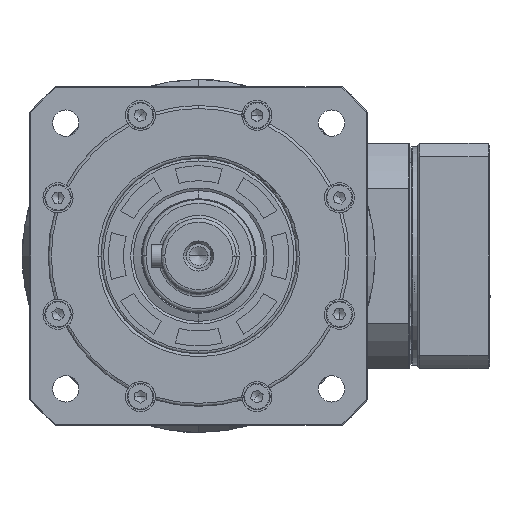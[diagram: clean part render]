
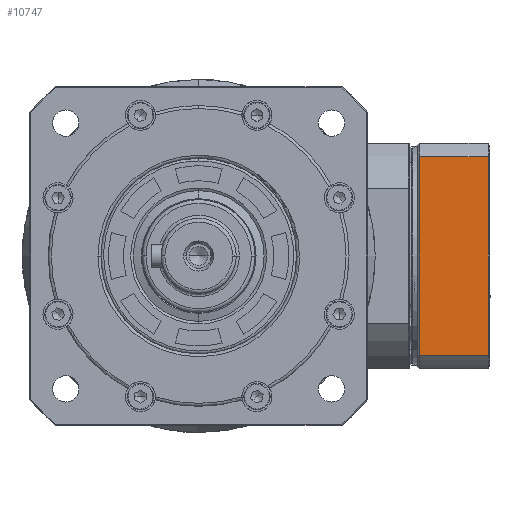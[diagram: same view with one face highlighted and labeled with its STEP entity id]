
A CAD part, left-side view. The second image highlights one B-rep face of the part: STEP entity #10747.
In plain terms, the highlighted planar face has unit normal (-1, 0, 0) as drawn and (0, -1, 0) by its records, which use the part's own axes.
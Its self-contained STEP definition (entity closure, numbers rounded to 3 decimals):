
#226 = ORIENTED_EDGE ( 'NONE', *, *, #49628, .T. ) ;
#1699 = CARTESIAN_POINT ( 'NONE',  ( 6.3, -30., 26.458 ) ) ;
#5575 = CARTESIAN_POINT ( 'NONE',  ( 24.5, -30., -26.458 ) ) ;
#5640 = DIRECTION ( 'NONE',  ( 0., 0., -1. ) ) ;
#5740 = DIRECTION ( 'NONE',  ( 0., 0., 1. ) ) ;
#6523 = LINE ( 'NONE', #50834, #27092 ) ;
#10747 = ADVANCED_FACE ( 'NONE', ( #51462 ), #22061, .T. ) ;
#13459 = CARTESIAN_POINT ( 'NONE',  ( -51., -30., -26.458 ) ) ;
#14202 = EDGE_CURVE ( 'NONE', #42541, #17441, #29405, .T. ) ;
#15630 = EDGE_CURVE ( 'NONE', #33110, #42392, #16548, .T. ) ;
#16548 = LINE ( 'NONE', #17122, #20503 ) ;
#17122 = CARTESIAN_POINT ( 'NONE',  ( 0., -30., 26.458 ) ) ;
#17441 = VERTEX_POINT ( 'NONE', #5575 ) ;
#17599 = DIRECTION ( 'NONE',  ( 1., 0., 0. ) ) ;
#18487 = VECTOR ( 'NONE', #36350, 1000. ) ;
#19810 = LINE ( 'NONE', #52805, #18487 ) ;
#20503 = VECTOR ( 'NONE', #41552, 1000. ) ;
#20566 = ORIENTED_EDGE ( 'NONE', *, *, #14202, .T. ) ;
#22061 = PLANE ( 'NONE',  #43510 ) ;
#27092 = VECTOR ( 'NONE', #5740, 1000. ) ;
#27157 = ORIENTED_EDGE ( 'NONE', *, *, #42804, .T. ) ;
#27553 = CARTESIAN_POINT ( 'NONE',  ( 24.5, -30., 26.458 ) ) ;
#29405 = LINE ( 'NONE', #13459, #30061 ) ;
#30061 = VECTOR ( 'NONE', #17599, 1000. ) ;
#30238 = DIRECTION ( 'NONE',  ( 0., -1., 0. ) ) ;
#33110 = VERTEX_POINT ( 'NONE', #1699 ) ;
#36350 = DIRECTION ( 'NONE',  ( 0., 0., -1. ) ) ;
#41552 = DIRECTION ( 'NONE',  ( 1., 0., 0. ) ) ;
#42392 = VERTEX_POINT ( 'NONE', #27553 ) ;
#42541 = VERTEX_POINT ( 'NONE', #49036 ) ;
#42804 = EDGE_CURVE ( 'NONE', #17441, #42392, #6523, .T. ) ;
#43510 = AXIS2_PLACEMENT_3D ( 'NONE', #50728, #30238, #5640 ) ;
#45182 = ORIENTED_EDGE ( 'NONE', *, *, #15630, .F. ) ;
#48590 = EDGE_LOOP ( 'NONE', ( #226, #20566, #27157, #45182 ) ) ;
#49036 = CARTESIAN_POINT ( 'NONE',  ( 6.3, -30., -26.458 ) ) ;
#49628 = EDGE_CURVE ( 'NONE', #33110, #42541, #19810, .T. ) ;
#50728 = CARTESIAN_POINT ( 'NONE',  ( -51., -30., -26.458 ) ) ;
#50834 = CARTESIAN_POINT ( 'NONE',  ( 24.5, -30., -26.458 ) ) ;
#51462 = FACE_OUTER_BOUND ( 'NONE', #48590, .T. ) ;
#52805 = CARTESIAN_POINT ( 'NONE',  ( 6.3, -30., 0. ) ) ;
